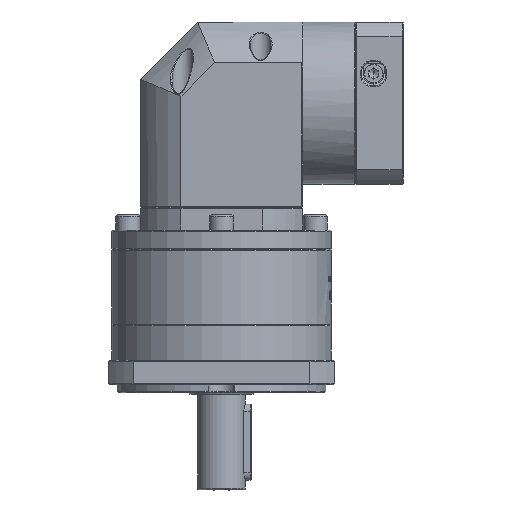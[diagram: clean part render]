
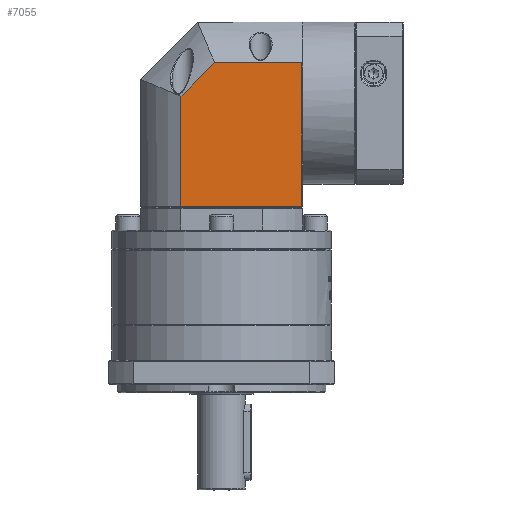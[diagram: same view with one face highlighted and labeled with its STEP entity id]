
A CAD part, front view. The second image highlights one B-rep face of the part: STEP entity #7055.
In plain terms, the highlighted planar face has unit normal (0, -1, 0).
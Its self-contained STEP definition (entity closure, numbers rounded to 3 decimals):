
#7055 = ADVANCED_FACE ( 'NONE', ( #112805 ), #109457, .F. ) ;
#10395 = VECTOR ( 'NONE', #118492, 1000. ) ;
#11971 = CARTESIAN_POINT ( 'NONE',  ( -3.82, 98.818, 16.416 ) ) ;
#15505 = EDGE_CURVE ( 'NONE', #22214, #139874, #137565, .T. ) ;
#17574 = VECTOR ( 'NONE', #32368, 1000. ) ;
#20630 = VECTOR ( 'NONE', #143066, 1000. ) ;
#20671 = CARTESIAN_POINT ( 'NONE',  ( 59.394, 98.818, -80.084 ) ) ;
#22214 = VERTEX_POINT ( 'NONE', #24697 ) ;
#22670 = VECTOR ( 'NONE', #137009, 1000. ) ;
#24697 = CARTESIAN_POINT ( 'NONE',  ( 59.394, 98.818, -4.87 ) ) ;
#25286 = CARTESIAN_POINT ( 'NONE',  ( -3.82, 98.818, -22.401 ) ) ;
#32368 = DIRECTION ( 'NONE',  ( 1., 0., 0. ) ) ;
#41683 = LINE ( 'NONE', #131712, #22670 ) ;
#42593 = EDGE_CURVE ( 'NONE', #56196, #128773, #41683, .T. ) ;
#56196 = VERTEX_POINT ( 'NONE', #25286 ) ;
#60055 = AXIS2_PLACEMENT_3D ( 'NONE', #136752, #134982, #162314 ) ;
#71004 = LINE ( 'NONE', #154734, #17574 ) ;
#77557 = CARTESIAN_POINT ( 'NONE',  ( 59.894, 98.818, -4.87 ) ) ;
#81252 = CARTESIAN_POINT ( 'NONE',  ( -3.82, 98.818, -80.084 ) ) ;
#81808 = VECTOR ( 'NONE', #173521, 1000. ) ;
#82540 = ORIENTED_EDGE ( 'NONE', *, *, #120862, .F. ) ;
#86064 = LINE ( 'NONE', #11971, #81808 ) ;
#94274 = EDGE_CURVE ( 'NONE', #172615, #56196, #86064, .T. ) ;
#98670 = CARTESIAN_POINT ( 'NONE',  ( 13.711, 98.818, -4.87 ) ) ;
#109457 = PLANE ( 'NONE',  #60055 ) ;
#112805 = FACE_OUTER_BOUND ( 'NONE', #129175, .T. ) ;
#114565 = LINE ( 'NONE', #77557, #10395 ) ;
#118492 = DIRECTION ( 'NONE',  ( 1., 0., 0. ) ) ;
#118625 = ORIENTED_EDGE ( 'NONE', *, *, #94274, .F. ) ;
#119581 = ORIENTED_EDGE ( 'NONE', *, *, #15505, .F. ) ;
#120862 = EDGE_CURVE ( 'NONE', #128773, #22214, #114565, .T. ) ;
#127058 = ORIENTED_EDGE ( 'NONE', *, *, #42593, .F. ) ;
#128773 = VERTEX_POINT ( 'NONE', #98670 ) ;
#129175 = EDGE_LOOP ( 'NONE', ( #157286, #119581, #82540, #127058, #118625 ) ) ;
#131712 = CARTESIAN_POINT ( 'NONE',  ( -3.82, 98.818, -22.401 ) ) ;
#134982 = DIRECTION ( 'NONE',  ( 0., 1., 0. ) ) ;
#136752 = CARTESIAN_POINT ( 'NONE',  ( 59.894, 98.818, 16.416 ) ) ;
#137009 = DIRECTION ( 'NONE',  ( 0.707, 0., 0.707 ) ) ;
#137565 = LINE ( 'NONE', #141284, #20630 ) ;
#139874 = VERTEX_POINT ( 'NONE', #20671 ) ;
#141284 = CARTESIAN_POINT ( 'NONE',  ( 59.394, 98.818, 16.416 ) ) ;
#143066 = DIRECTION ( 'NONE',  ( 0., 0., -1. ) ) ;
#146662 = EDGE_CURVE ( 'NONE', #172615, #139874, #71004, .T. ) ;
#154734 = CARTESIAN_POINT ( 'NONE',  ( 59.894, 98.818, -80.084 ) ) ;
#157286 = ORIENTED_EDGE ( 'NONE', *, *, #146662, .T. ) ;
#162314 = DIRECTION ( 'NONE',  ( -1., 0., 0. ) ) ;
#172615 = VERTEX_POINT ( 'NONE', #81252 ) ;
#173521 = DIRECTION ( 'NONE',  ( 0., 0., 1. ) ) ;
